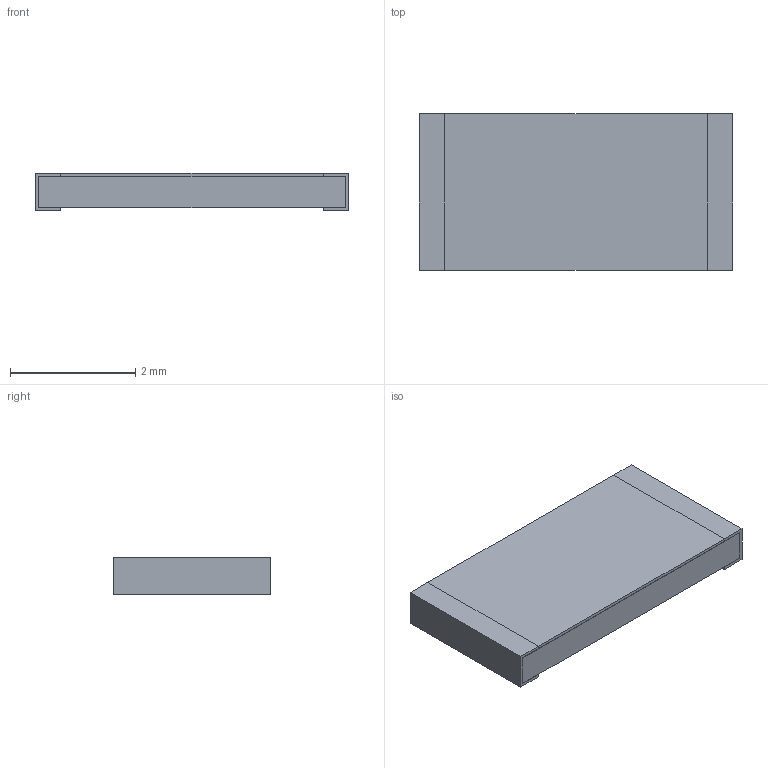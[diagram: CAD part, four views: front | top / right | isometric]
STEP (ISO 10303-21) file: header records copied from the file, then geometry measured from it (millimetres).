
FILE_DESCRIPTION(('STEP AP203'), '1');
FILE_NAME('P1-8B-2010', '', ('UNSPECIFIED'), ('UNSPECIFIED'), 'ASCON STEP Converter 1.6', 'ASCON Math Kernel', '');
FILE_SCHEMA(('CONFIG_CONTROL_DESIGN'));
Length unit declared in the file: millimetre
Bounding box: 5 x 2.5 x 0.6 mm (x, y, z)
Volume: 7 mm3; surface area: 67.6 mm2
Topology: 4 solids, 5 shells, 51 faces, 123 edges, 82 vertices
Faces by surface type: plane 47, cylinder 4
Entity records: 1937 total; most frequent: CARTESIAN_POINT 257, ORIENTED_EDGE 246, DIRECTION 235, EDGE_CURVE 123, LINE 115, VECTOR 115, VERTEX_POINT 82, AXIS2_PLACEMENT_3D 60
